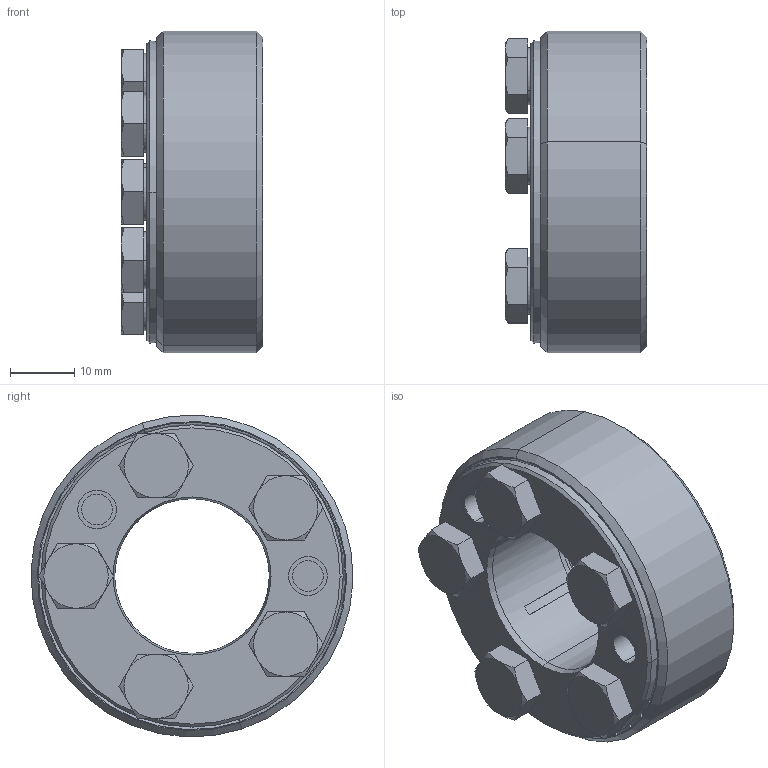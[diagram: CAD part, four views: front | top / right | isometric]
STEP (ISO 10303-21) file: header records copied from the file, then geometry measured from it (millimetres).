
FILE_DESCRIPTION((''),'2;1');
FILE_NAME('1012857445_ASM','2017-02-06T',('3029baum'),(''),'CREO PARAMETRIC BY PTC INC, 2015290','CREO PARAMETRIC BY PTC INC, 2015290','');
FILE_SCHEMA(('CONFIG_CONTROL_DESIGN'));
Length unit declared in the file: millimetre
Products named in the file (4): 1012857449; 1012883216; 1012857634; 1012857445_ASM
Assembly tree (7 placements, depth 2):
  1012857445_ASM
    1012857449
    1012883216
    1012857634  x5
Bounding box: 22 x 49.97 x 49.97 mm (x, y, z)
Volume: 26054.8 mm3; surface area: 17666.2 mm2
Topology: 7 solids, 19 shells, 215 faces, 526 edges, 336 vertices
Faces by surface type: cylinder 72, plane 63, cone 60, torus 20
Entity records: 3885 total; most frequent: CARTESIAN_POINT 758, DIRECTION 704, ORIENTED_EDGE 556, AXIS2_PLACEMENT_3D 306, EDGE_CURVE 294, VERTEX_POINT 192, CIRCLE 178, EDGE_LOOP 142
